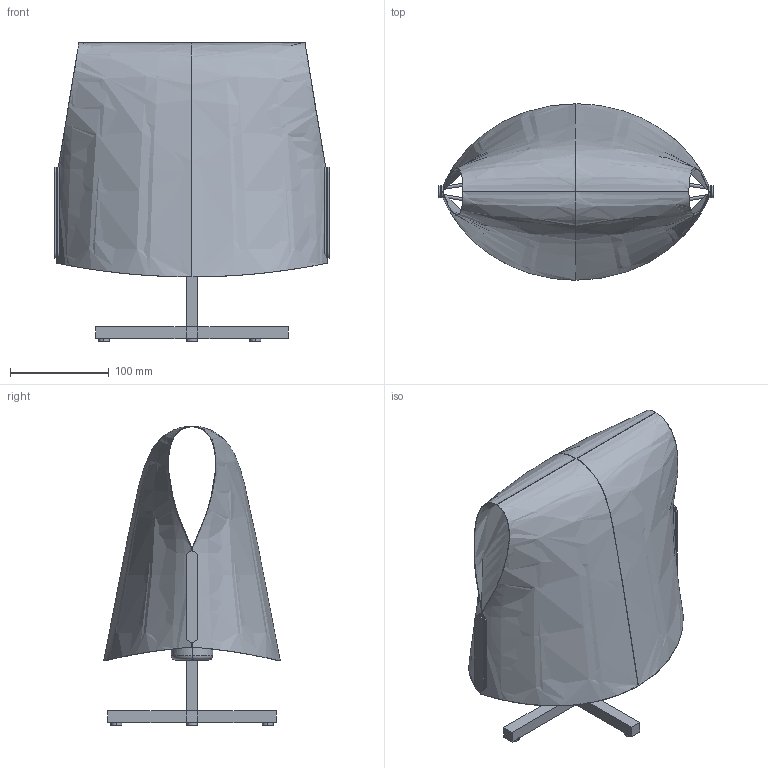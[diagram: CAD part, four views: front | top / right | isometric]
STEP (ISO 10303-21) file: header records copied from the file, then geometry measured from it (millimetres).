
FILE_DESCRIPTION(/* description */ (''),/* implementation_level */ '2;1');
FILE_NAME(/* name */ '23001-57.stp',/* time_stamp */ '2024-07-04T09:05:04+02:00',/* author */ ('RenataManzini'),/* organization */ (''),/* preprocessor_version */ 'ST-DEVELOPER v20',/* originating_system */ 'AutoCAD Mechanical',/* authorisation */ '');
FILE_SCHEMA (('AUTOMOTIVE_DESIGN { 1 0 10303 214 3 1 1 }'));
Length unit declared in the file: millimetre
Products named in the file (3): Product; pieza_lamp_luang - pieza_soporte_luang-703051-_3D_; pieza_lamp_luang - LUANG S SOBREMESA_dwg-708542-_3D_
Assembly tree (2 placements, depth 3):
  Product
    pieza_lamp_luang - pieza_soporte_luang-703051-_3D_
      pieza_lamp_luang - LUANG S SOBREMESA_dwg-708542-_3D_
Bounding box: 277.03 x 178.36 x 302.35 mm (x, y, z)
Volume: 138106.9 mm3; surface area: 347591.6 mm2
Topology: 6 solids, 7 shells, 108 faces, 253 edges, 159 vertices
Faces by surface type: plane 52, cylinder 34, bspline 20, torus 2
Entity records: 5739 total; most frequent: CARTESIAN_POINT 3313, ORIENTED_EDGE 480, DIRECTION 454, EDGE_CURVE 250, AXIS2_PLACEMENT_3D 160, VERTEX_POINT 154, LINE 134, VECTOR 134
